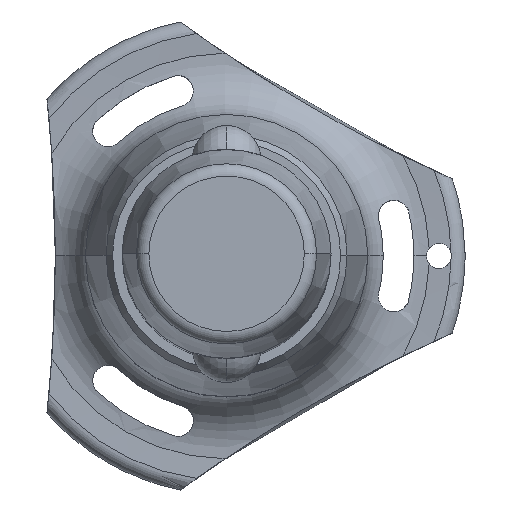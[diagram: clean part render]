
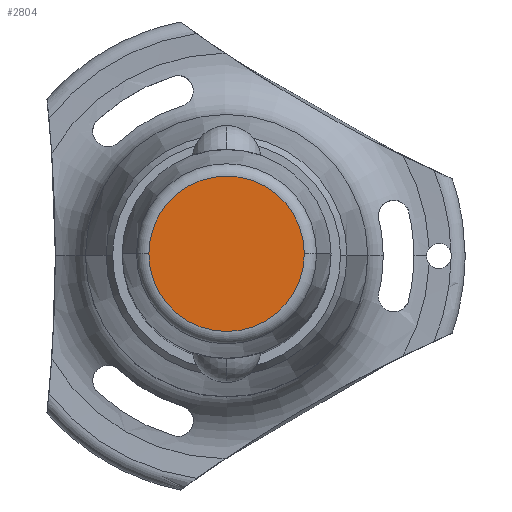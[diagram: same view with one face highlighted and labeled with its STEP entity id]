
A CAD part, top view. The second image highlights one B-rep face of the part: STEP entity #2804.
In plain terms, the highlighted planar face has unit normal (0, 0, 1).
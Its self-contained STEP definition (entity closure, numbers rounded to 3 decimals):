
#64 = DIRECTION ( 'NONE',  ( 0., 0., 1. ) ) ;
#97 = FACE_OUTER_BOUND ( 'NONE', #2367, .T. ) ;
#310 = ORIENTED_EDGE ( 'NONE', *, *, #371, .T. ) ;
#333 = CARTESIAN_POINT ( 'NONE',  ( 9.302, 0., 22. ) ) ;
#371 = EDGE_CURVE ( 'NONE', #1092, #2305, #2379, .T. ) ;
#565 = EDGE_CURVE ( 'NONE', #2305, #1092, #899, .T. ) ;
#812 = AXIS2_PLACEMENT_3D ( 'NONE', #852, #1109, #878 ) ;
#852 = CARTESIAN_POINT ( 'NONE',  ( 0., 0., 22. ) ) ;
#878 = DIRECTION ( 'NONE',  ( 1., 0., 0. ) ) ;
#899 = CIRCLE ( 'NONE', #2006, 9.302 ) ;
#952 = DIRECTION ( 'NONE',  ( 1., 0., 0. ) ) ;
#1092 = VERTEX_POINT ( 'NONE', #333 ) ;
#1109 = DIRECTION ( 'NONE',  ( 0., 0., 1. ) ) ;
#1373 = ORIENTED_EDGE ( 'NONE', *, *, #565, .T. ) ;
#1402 = DIRECTION ( 'NONE',  ( 1., 0., 0. ) ) ;
#1633 = PLANE ( 'NONE',  #1691 ) ;
#1691 = AXIS2_PLACEMENT_3D ( 'NONE', #2499, #2095, #1402 ) ;
#2006 = AXIS2_PLACEMENT_3D ( 'NONE', #2048, #64, #952 ) ;
#2048 = CARTESIAN_POINT ( 'NONE',  ( 0., 0., 22. ) ) ;
#2095 = DIRECTION ( 'NONE',  ( 0., 0., 1. ) ) ;
#2122 = CARTESIAN_POINT ( 'NONE',  ( -9.302, 0., 22. ) ) ;
#2305 = VERTEX_POINT ( 'NONE', #2122 ) ;
#2367 = EDGE_LOOP ( 'NONE', ( #310, #1373 ) ) ;
#2379 = CIRCLE ( 'NONE', #812, 9.302 ) ;
#2499 = CARTESIAN_POINT ( 'NONE',  ( 0., 0., 22. ) ) ;
#2804 = ADVANCED_FACE ( 'NONE', ( #97 ), #1633, .T. ) ;
